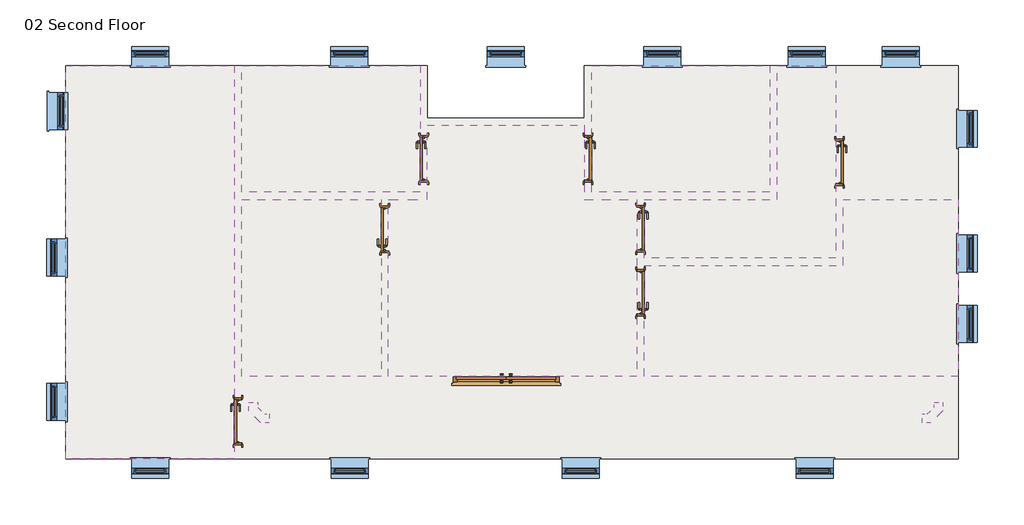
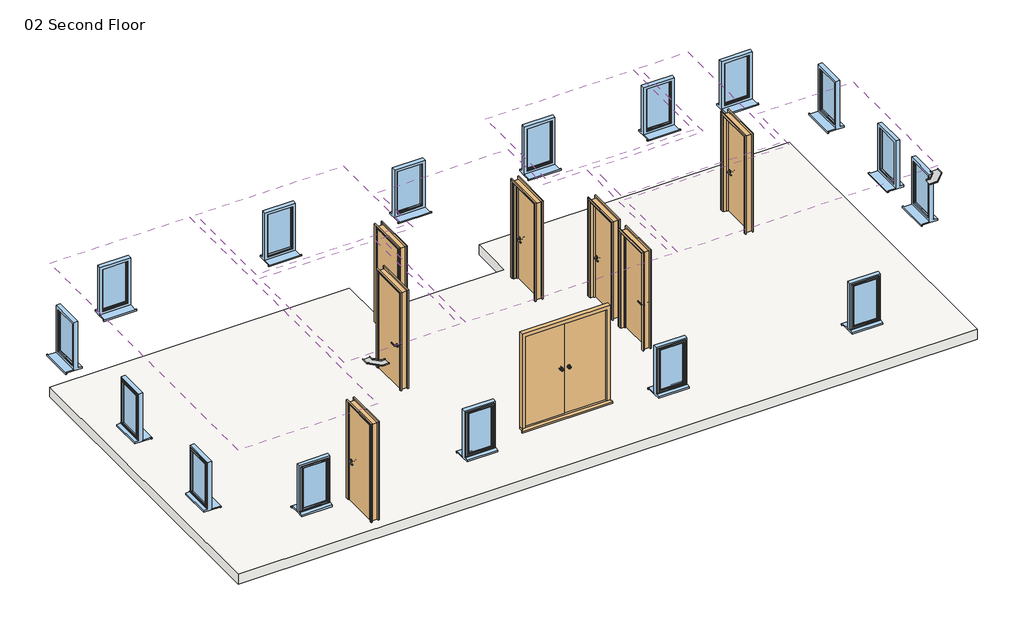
# One storey: 16 windows, 8 doors, 7 coverings, 2 cable carrier fittings, 1 slab.
"""IFC4 building model written with IfcOpenShell, lengths in millimetres."""

from ifc_helpers import new_model, si_unit, frame, origin, place, context, project, spatial, polyline, outline, extrude, transform, mapped, element, save
from components import cable_tray_horizontal_bend_standard_cea69160, extdbl_flush_1810_x_2110mm_182ebfd7, intsgl_1_810_x_2110mm_5ef26f82, intsgl_1_810_x_2110mm_60c2a13c, sgl_plain_630_x_1050mm_deep_554a1539

model = new_model("IFC4")

# Units and contexts
model_context = context("Model", 3, world=origin())
ifc_project = project(units=[si_unit("LENGTHUNIT", "METRE", prefix="MILLI")], contexts=[model_context])

# Site, building, storey
site = spatial("IfcSite", under=ifc_project)
building = spatial("IfcBuilding", under=site)
storey = spatial("IfcBuildingStorey", under=building, Name="02 Second Floor", Elevation=4000.0)

# Cable carrier fittings
placement = place(None, origin())
cable_tray_horizontal_bend_standard_shape = cable_tray_horizontal_bend_standard_cea69160(model_context)
element("IfcCableCarrierFitting", 1, ObjectType="Cable Tray Horizontal Bend : Standard", at=placement, inside=storey, context=model_context, shape_type="MappedRepresentation", body=[
    mapped(cable_tray_horizontal_bend_standard_shape, transform((8567.076402, -4128.3205251, 7000.0), x_axis=(1.0, 0.0, 0.0), y_axis=(0.0, 1.0, 0.0), z_axis=(0.0, 0.0, 1.0))),
])
element("IfcCableCarrierFitting", 2, ObjectType="Cable Tray Horizontal Bend : Standard", at=placement, inside=storey, context=model_context, shape_type="MappedRepresentation", body=[
    mapped(cable_tray_horizontal_bend_standard_shape, transform((-3112.923598, -4128.3205251, 7000.0), x_axis=(0.0, -1.0, 0.0), y_axis=(1.0, 0.0, 0.0), z_axis=(0.0, 0.0, 1.0))),
])

# Coverings
element("IfcCovering", 3, ObjectType="600 x 600mm grid 2", at=placement, inside=storey, context=model_context, shape_type="SweptSolid", body=[
    extrude(outline(polyline([(-3433.0198612, 1889.6075821), (-3433.0198612, -4820.3924179), (-6308.0198612, -4820.3924179), (-6308.0198612, 1889.6075821), (-3433.0198612, 1889.6075821)])), frame((0.0, 0.0, 6700.0), z_axis=(0.0, 0.0, 1.0), x_axis=(1.0, 0.0, 0.0)), (0.0, 0.0, 1.0), 52.0),
])
element("IfcCovering", 4, ObjectType="600 x 600mm grid 2", at=placement, inside=storey, context=model_context, shape_type="SweptSolid", body=[
    extrude(outline(polyline([(-3308.0198612, 1889.6075821), (-270.5198612, 1889.6075821), (-270.5198612, -265.3924179), (-3308.0198612, -265.3924179), (-3308.0198612, 1889.6075821)])), frame((0.0, 0.0, 6700.0), z_axis=(0.0, 0.0, 1.0), x_axis=(1.0, 0.0, 0.0)), (0.0, 0.0, 1.0), 52.0),
])
element("IfcCovering", 5, ObjectType="600 x 600mm grid 2", at=placement, inside=storey, context=model_context, shape_type="SweptSolid", body=[
    extrude(outline(polyline([(-3308.0198612, -390.3924179), (-933.0198612, -390.3924179), (-933.0198612, -3407.8924179), (-3308.0198612, -3407.8924179), (-3308.0198612, -390.3924179)])), frame((0.0, 0.0, 6700.0), z_axis=(0.0, 0.0, 1.0), x_axis=(1.0, 0.0, 0.0)), (0.0, 0.0, 1.0), 52.0),
])
element("IfcCovering", 6, ObjectType="600 x 600mm grid 2", at=placement, inside=storey, context=model_context, shape_type="SweptSolid", body=[
    extrude(outline(polyline([(-808.0198612, -390.3924179), (-145.5198612, -390.3924179), (-145.5198612, 872.1075821), (2529.4801388, 872.1075821), (2529.4801388, -390.3924179), (3426.9801388, -390.3924179), (3426.9801388, -3407.8924179), (-808.0198612, -3407.8924179), (-808.0198612, -390.3924179)])), frame((0.0, 0.0, 6700.0), z_axis=(0.0, 0.0, 1.0), x_axis=(1.0, 0.0, 0.0)), (0.0, 0.0, 1.0), 52.0),
])
element("IfcCovering", 7, ObjectType="600 x 600mm grid 2", at=placement, inside=storey, context=model_context, shape_type="SweptSolid", body=[
    extrude(outline(polyline([(2654.4801388, 1889.6075821), (5691.9801388, 1889.6075821), (5691.9801388, -265.3924179), (2654.4801388, -265.3924179), (2654.4801388, 1889.6075821)])), frame((0.0, 0.0, 6700.0), z_axis=(0.0, 0.0, 1.0), x_axis=(1.0, 0.0, 0.0)), (0.0, 0.0, 1.0), 52.0),
])
element("IfcCovering", 8, ObjectType="600 x 600mm grid 2", at=placement, inside=storey, context=model_context, shape_type="SweptSolid", body=[
    extrude(outline(polyline([(5816.9801388, 1889.6075821), (6816.9801388, 1889.6075821), (6816.9801388, -1390.3924179), (3551.9801388, -1390.3924179), (3551.9801388, -390.3924179), (5816.9801388, -390.3924179), (5816.9801388, 1889.6075821)])), frame((0.0, 0.0, 6700.0), z_axis=(0.0, 0.0, 1.0), x_axis=(1.0, 0.0, 0.0)), (0.0, 0.0, 1.0), 52.0),
])
element("IfcCovering", 9, ObjectType="600 x 600mm grid 2", at=placement, inside=storey, context=model_context, shape_type="SweptSolid", body=[
    extrude(outline(polyline([(8901.9801388, -390.3924179), (8901.9801388, -3407.8924179), (3551.9801388, -3407.8924179), (3551.9801388, -1515.3924179), (6941.9801388, -1515.3924179), (6941.9801388, -390.3924179), (8901.9801388, -390.3924179)])), frame((0.0, 0.0, 6700.0), z_axis=(0.0, 0.0, 1.0), x_axis=(1.0, 0.0, 0.0)), (0.0, 0.0, 1.0), 52.0),
])

# Doors
extdbl_flush_1810_x_2110mm_shape = extdbl_flush_1810_x_2110mm_182ebfd7(model_context)
element("IfcDoor", 10, ObjectType="ExtDbl Flush : 1810 x 2110mm", at=placement, inside=storey, context=model_context, shape_type="MappedRepresentation", body=[
    mapped(extdbl_flush_1810_x_2110mm_shape, transform((1196.9801388, -3470.3924179, 4000.0), x_axis=(1.0, 0.0, 0.0), y_axis=(0.0, 1.0, 0.0), z_axis=(0.0, 0.0, 1.0))),
])
intsgl_1_810_x_2110mm_shape = intsgl_1_810_x_2110mm_5ef26f82(model_context)
element("IfcDoor", 11, ObjectType="IntSgl (1) : 810 x 2110mm", at=placement, inside=storey, context=model_context, shape_type="MappedRepresentation", body=[
    mapped(intsgl_1_810_x_2110mm_shape, transform((-208.0198612, 303.3575821, 4000.0), x_axis=(0.0, -1.0, 0.0), y_axis=(1.0, 0.0, 0.0), z_axis=(0.0, 0.0, 1.0))),
])
element("IfcDoor", 12, ObjectType="IntSgl (1) : 810 x 2110mm", at=placement, inside=storey, context=model_context, shape_type="MappedRepresentation", body=[
    mapped(intsgl_1_810_x_2110mm_shape, transform((3489.4801388, -1982.8924179, 4000.0), x_axis=(0.0, 1.0, 0.0), y_axis=(-1.0, 0.0, 0.0), z_axis=(0.0, 0.0, 1.0))),
])
intsgl_1_810_x_2110mm_2_shape = intsgl_1_810_x_2110mm_60c2a13c(model_context)
element("IfcDoor", 13, ObjectType="IntSgl (1) : 810 x 2110mm", at=placement, inside=storey, context=model_context, shape_type="MappedRepresentation", body=[
    mapped(intsgl_1_810_x_2110mm_2_shape, transform((2591.9801388, 303.3575821, 4000.0), x_axis=(0.0, -1.0, 0.0), y_axis=(1.0, 0.0, 0.0), z_axis=(0.0, 0.0, 1.0))),
])
element("IfcDoor", 14, ObjectType="IntSgl (1) : 810 x 2110mm", at=placement, inside=storey, context=model_context, shape_type="MappedRepresentation", body=[
    mapped(intsgl_1_810_x_2110mm_2_shape, transform((-870.5198612, -902.8924179, 4000.0), x_axis=(0.0, 1.0, 0.0), y_axis=(-1.0, 0.0, 0.0), z_axis=(0.0, 0.0, 1.0))),
])
element("IfcDoor", 15, ObjectType="IntSgl (1) : 810 x 2110mm", at=placement, inside=storey, context=model_context, shape_type="MappedRepresentation", body=[
    mapped(intsgl_1_810_x_2110mm_2_shape, transform((3489.4801388, -890.3924179, 4000.0), x_axis=(0.0, -1.0, 0.0), y_axis=(1.0, 0.0, 0.0), z_axis=(0.0, 0.0, 1.0))),
])
element("IfcDoor", 16, ObjectType="IntSgl (1) : 810 x 2110mm", at=placement, inside=storey, context=model_context, shape_type="MappedRepresentation", body=[
    mapped(intsgl_1_810_x_2110mm_shape, transform((-3370.5198612, -4176.6424179, 4000.0), x_axis=(0.0, -1.0, 0.0), y_axis=(1.0, 0.0, 0.0), z_axis=(0.0, 0.0, 1.0))),
])
element("IfcDoor", 17, ObjectType="IntSgl (1) : 810 x 2110mm", at=placement, inside=storey, context=model_context, shape_type="MappedRepresentation", body=[
    mapped(intsgl_1_810_x_2110mm_2_shape, transform((6879.4801388, 239.6075821, 4000.0), x_axis=(0.0, -1.0, 0.0), y_axis=(1.0, 0.0, 0.0), z_axis=(0.0, 0.0, 1.0))),
])

# Slab
element("IfcSlab", 18, ObjectType="160mm Concrete with Corus-ComFlor 51", at=placement, inside=storey, context=model_context, shape_type="SweptSolid", body=[
    extrude(outline(polyline([(8901.9801388, -4820.3924179), (-6308.0198612, -4820.3924179), (-6308.0198612, 1889.6075821), (-145.5198612, 1889.6075821), (-145.5198612, 997.1075821), (2529.4801388, 997.1075821), (2529.4801388, 1889.6075821), (8901.9801388, 1889.6075821), (8901.9801388, -4820.3924179)])), frame((0.0, 0.0, 3789.0), z_axis=(0.0, 0.0, 1.0), x_axis=(1.0, 0.0, 0.0)), (0.0, 0.0, 1.0), 211.0),
])

# Windows
sgl_plain_630_x_1050mm_deep_shape = sgl_plain_630_x_1050mm_deep_554a1539(model_context)
element("IfcWindow", 19, ObjectType="Sgl Plain : 630 x 1050mm Deep", at=placement, inside=storey, context=model_context, shape_type="MappedRepresentation", body=[
    mapped(sgl_plain_630_x_1050mm_deep_shape, transform((-6461.476429, 1117.4075821, 4000.0), x_axis=(0.0, -1.0, 0.0), y_axis=(1.0, 0.0, 0.0), z_axis=(0.0, 0.0, 1.0))),
])
element("IfcWindow", 20, ObjectType="Sgl Plain : 630 x 1050mm Deep", at=placement, inside=storey, context=model_context, shape_type="MappedRepresentation", body=[
    mapped(sgl_plain_630_x_1050mm_deep_shape, transform((6453.3801388, -4956.9358501, 4000.0), x_axis=(-1.0, 0.0, 0.0), y_axis=(0.0, -1.0, 0.0), z_axis=(0.0, 0.0, 1.0))),
])
element("IfcWindow", 21, ObjectType="Sgl Plain : 630 x 1050mm Deep", at=placement, inside=storey, context=model_context, shape_type="MappedRepresentation", body=[
    mapped(sgl_plain_630_x_1050mm_deep_shape, transform((2470.5801388, -4956.9358501, 4000.0), x_axis=(-1.0, 0.0, 0.0), y_axis=(0.0, -1.0, 0.0), z_axis=(0.0, 0.0, 1.0))),
])
element("IfcWindow", 22, ObjectType="Sgl Plain : 630 x 1050mm Deep", at=placement, inside=storey, context=model_context, shape_type="MappedRepresentation", body=[
    mapped(sgl_plain_630_x_1050mm_deep_shape, transform((-1469.0198612, -4956.9358501, 4000.0), x_axis=(-1.0, 0.0, 0.0), y_axis=(0.0, -1.0, 0.0), z_axis=(0.0, 0.0, 1.0))),
])
element("IfcWindow", 23, ObjectType="Sgl Plain : 630 x 1050mm Deep", at=placement, inside=storey, context=model_context, shape_type="MappedRepresentation", body=[
    mapped(sgl_plain_630_x_1050mm_deep_shape, transform((-4870.5198612, -4956.9358501, 4000.0), x_axis=(-1.0, 0.0, 0.0), y_axis=(0.0, -1.0, 0.0), z_axis=(0.0, 0.0, 1.0))),
])
element("IfcWindow", 24, ObjectType="Sgl Plain : 630 x 1050mm Deep", at=placement, inside=storey, context=model_context, shape_type="MappedRepresentation", body=[
    mapped(sgl_plain_630_x_1050mm_deep_shape, transform((-6444.5632933, -3844.9924179, 4000.0), x_axis=(0.0, 1.0, 0.0), y_axis=(-1.0, 0.0, 0.0), z_axis=(0.0, 0.0, 1.0))),
])
element("IfcWindow", 25, ObjectType="Sgl Plain : 630 x 1050mm Deep", at=placement, inside=storey, context=model_context, shape_type="MappedRepresentation", body=[
    mapped(sgl_plain_630_x_1050mm_deep_shape, transform((-6444.5632933, -1386.1924179, 4000.0), x_axis=(0.0, 1.0, 0.0), y_axis=(-1.0, 0.0, 0.0), z_axis=(0.0, 0.0, 1.0))),
])
element("IfcWindow", 26, ObjectType="Sgl Plain : 630 x 1050mm Deep", at=placement, inside=storey, context=model_context, shape_type="MappedRepresentation", body=[
    mapped(sgl_plain_630_x_1050mm_deep_shape, transform((-4870.5198612, 2026.1510143, 4000.0), x_axis=(1.0, 0.0, 0.0), y_axis=(0.0, 1.0, 0.0), z_axis=(0.0, 0.0, 1.0))),
])
element("IfcWindow", 27, ObjectType="Sgl Plain : 630 x 1050mm Deep", at=placement, inside=storey, context=model_context, shape_type="MappedRepresentation", body=[
    mapped(sgl_plain_630_x_1050mm_deep_shape, transform((-1476.7698612, 2026.1510143, 4000.0), x_axis=(1.0, 0.0, 0.0), y_axis=(0.0, 1.0, 0.0), z_axis=(0.0, 0.0, 1.0))),
])
element("IfcWindow", 28, ObjectType="Sgl Plain : 630 x 1050mm Deep", at=placement, inside=storey, context=model_context, shape_type="MappedRepresentation", body=[
    mapped(sgl_plain_630_x_1050mm_deep_shape, transform((1191.9801388, 2026.1510143, 4000.0), x_axis=(1.0, 0.0, 0.0), y_axis=(0.0, 1.0, 0.0), z_axis=(0.0, 0.0, 1.0))),
])
element("IfcWindow", 29, ObjectType="Sgl Plain : 630 x 1050mm Deep", at=placement, inside=storey, context=model_context, shape_type="MappedRepresentation", body=[
    mapped(sgl_plain_630_x_1050mm_deep_shape, transform((3860.7301388, 2026.1510143, 4000.0), x_axis=(1.0, 0.0, 0.0), y_axis=(0.0, 1.0, 0.0), z_axis=(0.0, 0.0, 1.0))),
])
element("IfcWindow", 30, ObjectType="Sgl Plain : 630 x 1050mm Deep", at=placement, inside=storey, context=model_context, shape_type="MappedRepresentation", body=[
    mapped(sgl_plain_630_x_1050mm_deep_shape, transform((6316.9801388, 2026.1510143, 4000.0), x_axis=(1.0, 0.0, 0.0), y_axis=(0.0, 1.0, 0.0), z_axis=(0.0, 0.0, 1.0))),
])
element("IfcWindow", 31, ObjectType="Sgl Plain : 630 x 1050mm Deep", at=placement, inside=storey, context=model_context, shape_type="MappedRepresentation", body=[
    mapped(sgl_plain_630_x_1050mm_deep_shape, transform((7921.9801388, 2026.1510143, 4000.0), x_axis=(1.0, 0.0, 0.0), y_axis=(0.0, 1.0, 0.0), z_axis=(0.0, 0.0, 1.0))),
])
element("IfcWindow", 32, ObjectType="Sgl Plain : 630 x 1050mm Deep", at=placement, inside=storey, context=model_context, shape_type="MappedRepresentation", body=[
    mapped(sgl_plain_630_x_1050mm_deep_shape, transform((9038.523571, 812.1075821, 4000.0), x_axis=(0.0, -1.0, 0.0), y_axis=(1.0, 0.0, 0.0), z_axis=(0.0, 0.0, 1.0))),
])
element("IfcWindow", 33, ObjectType="Sgl Plain : 630 x 1050mm Deep", at=placement, inside=storey, context=model_context, shape_type="MappedRepresentation", body=[
    mapped(sgl_plain_630_x_1050mm_deep_shape, transform((9038.523571, -1314.9924179, 4000.0), x_axis=(0.0, -1.0, 0.0), y_axis=(1.0, 0.0, 0.0), z_axis=(0.0, 0.0, 1.0))),
])
element("IfcWindow", 34, ObjectType="Sgl Plain : 630 x 1050mm Deep", at=placement, inside=storey, context=model_context, shape_type="MappedRepresentation", body=[
    mapped(sgl_plain_630_x_1050mm_deep_shape, transform((9038.523571, -2518.9424179, 4000.0), x_axis=(0.0, -1.0, 0.0), y_axis=(1.0, 0.0, 0.0), z_axis=(0.0, 0.0, 1.0))),
])

save(model, "model.ifc")
